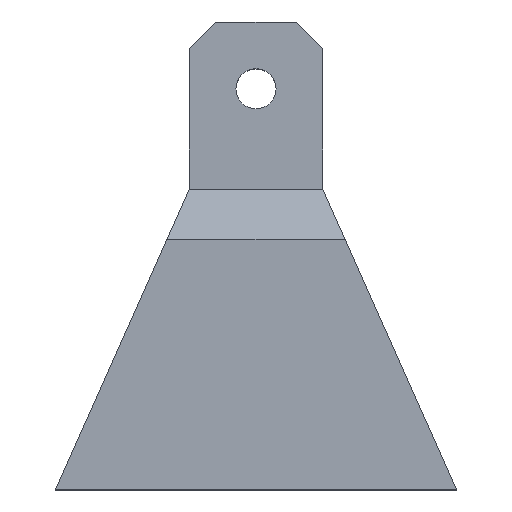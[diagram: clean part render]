
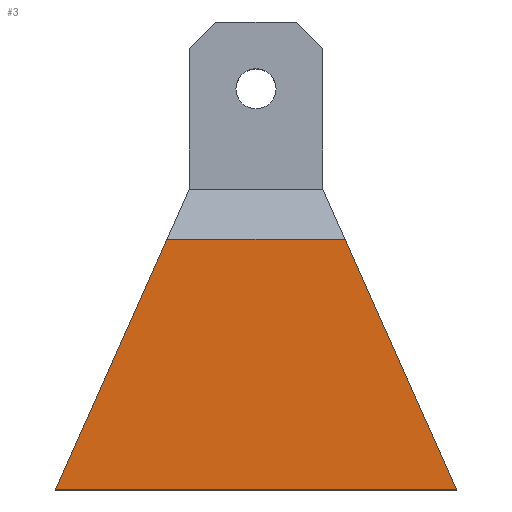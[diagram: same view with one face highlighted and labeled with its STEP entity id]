
A CAD part, top view. The second image highlights one B-rep face of the part: STEP entity #3.
In plain terms, the highlighted planar face has unit normal (0, 0, 1).
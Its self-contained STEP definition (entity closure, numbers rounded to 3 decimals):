
#3 = ADVANCED_FACE ( 'NONE', ( #281 ), #154, .F. ) ;
#9 = CARTESIAN_POINT ( 'NONE',  ( -30., 0., 17. ) ) ;
#11 = ORIENTED_EDGE ( 'NONE', *, *, #480, .T. ) ;
#19 = DIRECTION ( 'NONE',  ( 1., 0., 0. ) ) ;
#22 = VECTOR ( 'NONE', #19, 1000. ) ;
#30 = CARTESIAN_POINT ( 'NONE',  ( 13.333, 37.5, 17. ) ) ;
#51 = EDGE_LOOP ( 'NONE', ( #474, #555, #460, #11 ) ) ;
#103 = VECTOR ( 'NONE', #312, 1000. ) ;
#104 = DIRECTION ( 'NONE',  ( -1., 0., 0. ) ) ;
#113 = VERTEX_POINT ( 'NONE', #226 ) ;
#132 = CARTESIAN_POINT ( 'NONE',  ( 30., 0., 17. ) ) ;
#139 = DIRECTION ( 'NONE',  ( -1., 0., 0. ) ) ;
#154 = PLANE ( 'NONE',  #247 ) ;
#159 = DIRECTION ( 'NONE',  ( -0.406, -0.914, 0. ) ) ;
#174 = EDGE_CURVE ( 'NONE', #320, #113, #275, .T. ) ;
#191 = VERTEX_POINT ( 'NONE', #324 ) ;
#200 = CARTESIAN_POINT ( 'NONE',  ( 30., 0., 17. ) ) ;
#206 = LINE ( 'NONE', #200, #22 ) ;
#207 = CARTESIAN_POINT ( 'NONE',  ( -30., 0., 17. ) ) ;
#226 = CARTESIAN_POINT ( 'NONE',  ( -13.333, 37.5, 17. ) ) ;
#247 = AXIS2_PLACEMENT_3D ( 'NONE', #531, #435, #104 ) ;
#275 = LINE ( 'NONE', #556, #357 ) ;
#281 = FACE_OUTER_BOUND ( 'NONE', #51, .T. ) ;
#299 = LINE ( 'NONE', #132, #103 ) ;
#312 = DIRECTION ( 'NONE',  ( -0.406, 0.914, 0. ) ) ;
#320 = VERTEX_POINT ( 'NONE', #30 ) ;
#324 = CARTESIAN_POINT ( 'NONE',  ( 30., 0., 17. ) ) ;
#344 = EDGE_CURVE ( 'NONE', #113, #410, #408, .T. ) ;
#357 = VECTOR ( 'NONE', #139, 1000. ) ;
#408 = LINE ( 'NONE', #207, #432 ) ;
#410 = VERTEX_POINT ( 'NONE', #9 ) ;
#432 = VECTOR ( 'NONE', #159, 1000. ) ;
#435 = DIRECTION ( 'NONE',  ( 0., 0., -1. ) ) ;
#460 = ORIENTED_EDGE ( 'NONE', *, *, #558, .T. ) ;
#474 = ORIENTED_EDGE ( 'NONE', *, *, #174, .T. ) ;
#480 = EDGE_CURVE ( 'NONE', #191, #320, #299, .T. ) ;
#531 = CARTESIAN_POINT ( 'NONE',  ( 1.111, 70., 17. ) ) ;
#555 = ORIENTED_EDGE ( 'NONE', *, *, #344, .T. ) ;
#556 = CARTESIAN_POINT ( 'NONE',  ( 30.001, 37.5, 17. ) ) ;
#558 = EDGE_CURVE ( 'NONE', #410, #191, #206, .T. ) ;
